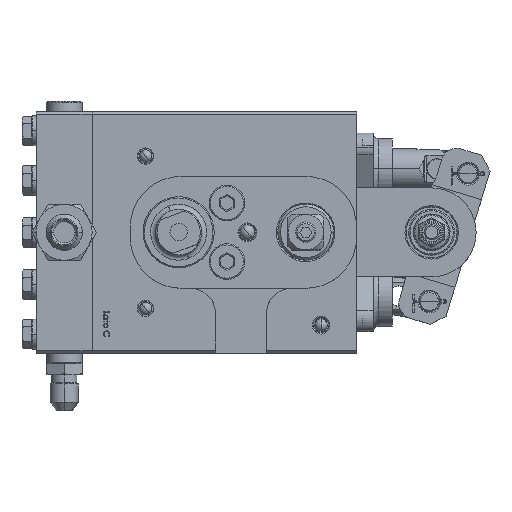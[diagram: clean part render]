
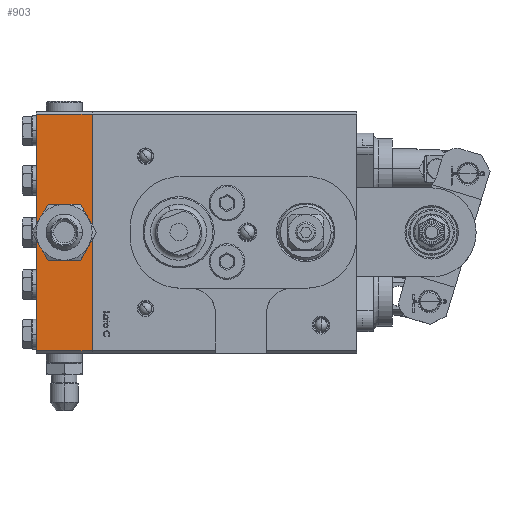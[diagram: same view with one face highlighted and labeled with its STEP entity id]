
A CAD part, top view. The second image highlights one B-rep face of the part: STEP entity #903.
In plain terms, the highlighted planar face has unit normal (0, 0, 1).
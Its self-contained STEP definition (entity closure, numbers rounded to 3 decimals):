
#611 = VERTEX_POINT ( 'NONE', #19343 ) ;
#903 = ADVANCED_FACE ( 'NONE', ( #37227, #27581 ), #30110, .F. ) ;
#2417 = DIRECTION ( 'NONE',  ( 0., -1., 0. ) ) ;
#2634 = LINE ( 'NONE', #20806, #10588 ) ;
#3259 = CARTESIAN_POINT ( 'NONE',  ( -155.595, -92.803, 24.875 ) ) ;
#4230 = CARTESIAN_POINT ( 'NONE',  ( -177.595, -92.803, 24.875 ) ) ;
#4708 = VECTOR ( 'NONE', #12328, 1000. ) ;
#5571 = CARTESIAN_POINT ( 'NONE',  ( -172.495, -45.303, 24.875 ) ) ;
#5654 = LINE ( 'NONE', #3259, #4708 ) ;
#6846 = DIRECTION ( 'NONE',  ( 0., 0., 1. ) ) ;
#7000 = VERTEX_POINT ( 'NONE', #5571 ) ;
#7023 = CARTESIAN_POINT ( 'NONE',  ( -166.595, -45.303, 24.875 ) ) ;
#7136 = AXIS2_PLACEMENT_3D ( 'NONE', #7023, #6846, #31868 ) ;
#7226 = CARTESIAN_POINT ( 'NONE',  ( -155.595, -91.803, 24.875 ) ) ;
#7893 = AXIS2_PLACEMENT_3D ( 'NONE', #21979, #31379, #10459 ) ;
#8084 = DIRECTION ( 'NONE',  ( -1., 0., 0. ) ) ;
#8246 = CIRCLE ( 'NONE', #7136, 5.9 ) ;
#9497 = LINE ( 'NONE', #34082, #17400 ) ;
#10090 = VERTEX_POINT ( 'NONE', #31532 ) ;
#10459 = DIRECTION ( 'NONE',  ( 1., 0., 0. ) ) ;
#10588 = VECTOR ( 'NONE', #15423, 1000. ) ;
#11002 = VERTEX_POINT ( 'NONE', #7226 ) ;
#12328 = DIRECTION ( 'NONE',  ( 0., -1., 0. ) ) ;
#12517 = VECTOR ( 'NONE', #2417, 1000. ) ;
#13204 = ORIENTED_EDGE ( 'NONE', *, *, #23832, .F. ) ;
#14035 = CARTESIAN_POINT ( 'NONE',  ( -160.695, -45.303, 24.875 ) ) ;
#15423 = DIRECTION ( 'NONE',  ( 1., 0., 0. ) ) ;
#15602 = ORIENTED_EDGE ( 'NONE', *, *, #25061, .F. ) ;
#17223 = EDGE_CURVE ( 'NONE', #10090, #611, #19595, .T. ) ;
#17400 = VECTOR ( 'NONE', #8084, 1000. ) ;
#17700 = ORIENTED_EDGE ( 'NONE', *, *, #37055, .T. ) ;
#18081 = EDGE_LOOP ( 'NONE', ( #31562, #15602 ) ) ;
#19343 = CARTESIAN_POINT ( 'NONE',  ( -177.595, -91.803, 24.875 ) ) ;
#19595 = LINE ( 'NONE', #4230, #12517 ) ;
#20806 = CARTESIAN_POINT ( 'NONE',  ( -155.595, -91.803, 24.875 ) ) ;
#21979 = CARTESIAN_POINT ( 'NONE',  ( -166.595, -45.303, 24.875 ) ) ;
#22444 = VERTEX_POINT ( 'NONE', #14035 ) ;
#22653 = EDGE_CURVE ( 'NONE', #35925, #10090, #9497, .T. ) ;
#23832 = EDGE_CURVE ( 'NONE', #35925, #11002, #5654, .T. ) ;
#24480 = AXIS2_PLACEMENT_3D ( 'NONE', #30587, #30709, #31125 ) ;
#25061 = EDGE_CURVE ( 'NONE', #7000, #22444, #31362, .T. ) ;
#27254 = CARTESIAN_POINT ( 'NONE',  ( -155.595, 1.197, 24.875 ) ) ;
#27581 = FACE_OUTER_BOUND ( 'NONE', #34891, .T. ) ;
#30110 = PLANE ( 'NONE',  #24480 ) ;
#30587 = CARTESIAN_POINT ( 'NONE',  ( -155.595, -92.803, 24.875 ) ) ;
#30709 = DIRECTION ( 'NONE',  ( 0., 0., -1. ) ) ;
#31125 = DIRECTION ( 'NONE',  ( 0., 1., 0. ) ) ;
#31362 = CIRCLE ( 'NONE', #7893, 5.9 ) ;
#31379 = DIRECTION ( 'NONE',  ( 0., 0., 1. ) ) ;
#31532 = CARTESIAN_POINT ( 'NONE',  ( -177.595, 1.197, 24.875 ) ) ;
#31562 = ORIENTED_EDGE ( 'NONE', *, *, #34032, .F. ) ;
#31868 = DIRECTION ( 'NONE',  ( 1., 0., 0. ) ) ;
#34032 = EDGE_CURVE ( 'NONE', #22444, #7000, #8246, .T. ) ;
#34082 = CARTESIAN_POINT ( 'NONE',  ( -155.595, 1.197, 24.875 ) ) ;
#34171 = ORIENTED_EDGE ( 'NONE', *, *, #17223, .T. ) ;
#34748 = ORIENTED_EDGE ( 'NONE', *, *, #22653, .T. ) ;
#34891 = EDGE_LOOP ( 'NONE', ( #13204, #34748, #34171, #17700 ) ) ;
#35925 = VERTEX_POINT ( 'NONE', #27254 ) ;
#37055 = EDGE_CURVE ( 'NONE', #611, #11002, #2634, .T. ) ;
#37227 = FACE_BOUND ( 'NONE', #18081, .T. ) ;
